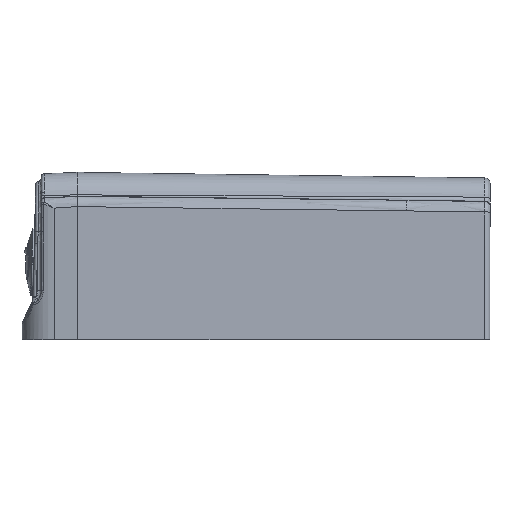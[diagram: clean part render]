
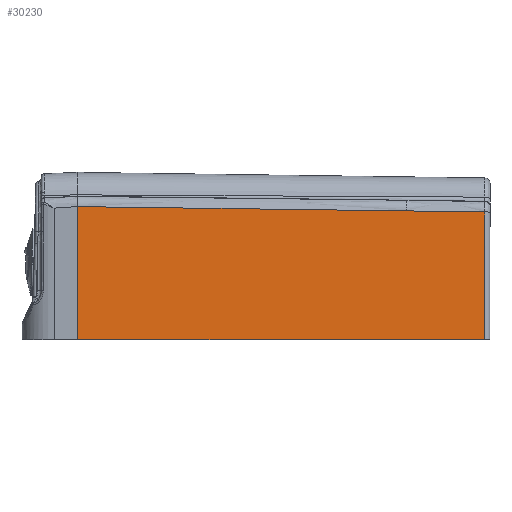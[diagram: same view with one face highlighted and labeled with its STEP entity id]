
A CAD part, left-side view. The second image highlights one B-rep face of the part: STEP entity #30230.
In plain terms, the highlighted planar face has unit normal (-1, -0.016, 0.01).
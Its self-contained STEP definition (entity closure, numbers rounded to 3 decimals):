
#208 = EDGE_CURVE ( 'NONE', #29873, #13931, #15920, .T. ) ;
#746 = CARTESIAN_POINT ( 'NONE',  ( -187.466, 313.678, -246.963 ) ) ;
#1746 = CARTESIAN_POINT ( 'NONE',  ( -184.304, 117.1, -249.498 ) ) ;
#3289 = CARTESIAN_POINT ( 'NONE',  ( -189.047, 411.966, -245.667 ) ) ;
#3411 = AXIS2_PLACEMENT_3D ( 'NONE', #4026, #28466, #26086 ) ;
#3971 = CARTESIAN_POINT ( 'NONE',  ( -183.176, 46.919, -250.474 ) ) ;
#4026 = CARTESIAN_POINT ( 'NONE',  ( -190.286, 411.966, -364.945 ) ) ;
#4444 = CARTESIAN_POINT ( 'NONE',  ( -183.928, 93.706, -249.802 ) ) ;
#5172 = EDGE_CURVE ( 'NONE', #20202, #8307, #16047, .T. ) ;
#5756 = ORIENTED_EDGE ( 'NONE', *, *, #5172, .T. ) ;
#8307 = VERTEX_POINT ( 'NONE', #3289 ) ;
#9344 = ORIENTED_EDGE ( 'NONE', *, *, #26975, .T. ) ;
#10429 = CARTESIAN_POINT ( 'NONE',  ( -189.047, 411.966, -245.667 ) ) ;
#11083 = VECTOR ( 'NONE', #17317, 1000. ) ;
#11790 = FACE_OUTER_BOUND ( 'NONE', #25533, .T. ) ;
#13582 = CARTESIAN_POINT ( 'NONE',  ( -183.176, 46.919, -250.474 ) ) ;
#13705 = PLANE ( 'NONE',  #3411 ) ;
#13931 = VERTEX_POINT ( 'NONE', #13582 ) ;
#15920 = LINE ( 'NONE', #30383, #24887 ) ;
#16047 = B_SPLINE_CURVE_WITH_KNOTS ( 'NONE', 3,
 ( #24882, #22484, #746, #10429 ),
 .UNSPECIFIED., .F., .F.,
 ( 4, 4 ),
 ( 0., 0.295 ),
 .UNSPECIFIED. ) ;
#16179 = ORIENTED_EDGE ( 'NONE', *, *, #17417, .F. ) ;
#17317 = DIRECTION ( 'NONE',  ( -0.016, 1., 0. ) ) ;
#17417 = EDGE_CURVE ( 'NONE', #27145, #8307, #26629, .T. ) ;
#17658 = B_SPLINE_CURVE_WITH_KNOTS ( 'NONE', 3,
 ( #3971, #23495, #4444, #1746 ),
 .UNSPECIFIED., .F., .F.,
 ( 4, 4 ),
 ( 0.005, 0.075 ),
 .UNSPECIFIED. ) ;
#18398 = CARTESIAN_POINT ( 'NONE',  ( -184.304, 117.1, -249.498 ) ) ;
#19313 = CARTESIAN_POINT ( 'NONE',  ( -188.992, 411.966, -240.38 ) ) ;
#20007 = LINE ( 'NONE', #29545, #11083 ) ;
#20202 = VERTEX_POINT ( 'NONE', #18398 ) ;
#20805 = VECTOR ( 'NONE', #22479, 1000. ) ;
#20999 = DIRECTION ( 'NONE',  ( 0.01, 0., 1. ) ) ;
#22479 = DIRECTION ( 'NONE',  ( 0.01, 0., 1. ) ) ;
#22484 = CARTESIAN_POINT ( 'NONE',  ( -185.885, 215.388, -248.219 ) ) ;
#22697 = ORIENTED_EDGE ( 'NONE', *, *, #25585, .F. ) ;
#23495 = CARTESIAN_POINT ( 'NONE',  ( -183.552, 70.312, -250.129 ) ) ;
#24882 = CARTESIAN_POINT ( 'NONE',  ( -184.304, 117.1, -249.498 ) ) ;
#24887 = VECTOR ( 'NONE', #20999, 1000. ) ;
#25104 = CARTESIAN_POINT ( 'NONE',  ( -184.367, 46.919, -364.997 ) ) ;
#25533 = EDGE_LOOP ( 'NONE', ( #22697, #29281, #9344, #5756, #16179 ) ) ;
#25585 = EDGE_CURVE ( 'NONE', #29873, #27145, #20007, .T. ) ;
#26086 = DIRECTION ( 'NONE',  ( -0.01, 0., -1. ) ) ;
#26629 = LINE ( 'NONE', #19313, #20805 ) ;
#26975 = EDGE_CURVE ( 'NONE', #13931, #20202, #17658, .T. ) ;
#27145 = VERTEX_POINT ( 'NONE', #31073 ) ;
#28466 = DIRECTION ( 'NONE',  ( -1., -0.016, 0.01 ) ) ;
#29281 = ORIENTED_EDGE ( 'NONE', *, *, #208, .T. ) ;
#29545 = CARTESIAN_POINT ( 'NONE',  ( -184.188, 35.891, -364.998 ) ) ;
#29873 = VERTEX_POINT ( 'NONE', #25104 ) ;
#30230 = ADVANCED_FACE ( 'NONE', ( #11790 ), #13705, .T. ) ;
#30383 = CARTESIAN_POINT ( 'NONE',  ( -183.177, 46.919, -250.546 ) ) ;
#31073 = CARTESIAN_POINT ( 'NONE',  ( -190.286, 411.966, -364.945 ) ) ;
